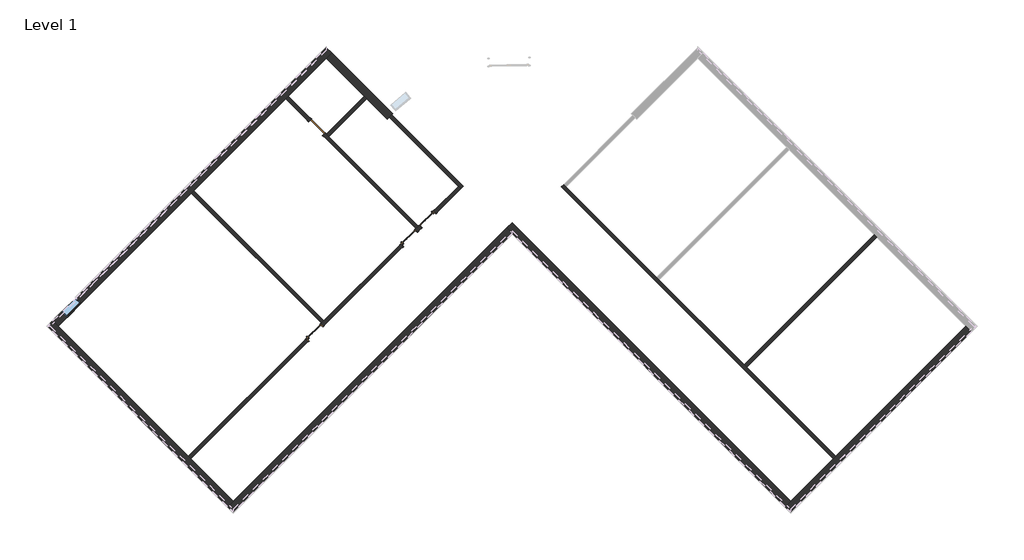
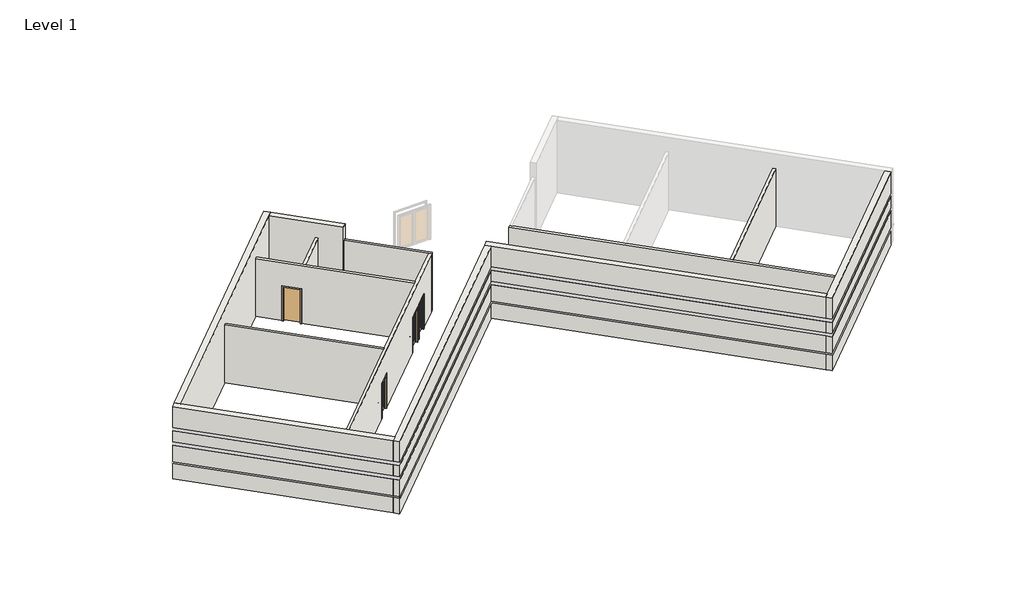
# One storey, part 1 of 2: 13 walls, 4 doors, 1 window.
"""IFC4 building model written with IfcOpenShell, lengths in millimetres."""

from ifc_helpers import new_model, si_unit, frame, origin, origin_with_axes, place, context, project, spatial, polyline, circle_curve, outline, extrude, faceted_brep, transform, mapped, element, save
from ifc_brep_helpers import plane_surface, cylinder_surface, revolved_surface, advanced_brep
from components import door_47956b35, door_87dbb2e6, door_9d26d547, window_15c49d37

model = new_model("IFC4")

# Units and contexts
model_context = context("Model", 3, world=origin())
ifc_project = project(units=[si_unit("LENGTHUNIT", "METRE", prefix="MILLI")], contexts=[model_context])

# Site, building, storey
site = spatial("IfcSite", under=ifc_project)
building = spatial("IfcBuilding", under=site)
storey = spatial("IfcBuildingStorey", under=building, Name="Level 1", Elevation=0.0)

# Doors
placement = place(None, origin())
door_shape = door_47956b35(model_context)
element("IfcDoor", 1, ObjectType="Door-Interior-Single-Full Glass-Wood : 36\" x 84\"", at=placement, inside=storey, context=model_context, shape_type="MappedRepresentation", body=[
    mapped(door_shape, transform((-12030.0168896, -1645.2399237, 0.0), x_axis=(0.7071067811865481, 0.7071067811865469, 0.0), y_axis=(-0.7071067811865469, 0.7071067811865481, 0.0), z_axis=(0.0, 0.0, 1.0))),
])
element("IfcDoor", 2, ObjectType="Door-Interior-Single-Full Glass-Wood : 36\" x 84\"", at=placement, inside=storey, context=model_context, shape_type="MappedRepresentation", body=[
    mapped(door_shape, transform((-7645.5246207, 2739.2523451, 0.0), x_axis=(0.7071067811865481, 0.7071067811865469, 0.0), y_axis=(-0.7071067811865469, 0.7071067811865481, 0.0), z_axis=(0.0, 0.0, 1.0))),
])
door_2_shape = door_87dbb2e6(model_context)
element("IfcDoor", 3, ObjectType="Door-Interior-Single-Full Glass-Wood : 36\" x 84\"", at=placement, inside=storey, context=model_context, shape_type="MappedRepresentation", body=[
    mapped(door_2_shape, transform((-6783.4200331, 3601.3569328, 0.0), x_axis=(-0.7071067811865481, -0.7071067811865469, 0.0), y_axis=(0.7071067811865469, -0.7071067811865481, 0.0), z_axis=(0.0, 0.0, 1.0))),
])
door_3_shape = door_9d26d547(model_context)
element("IfcDoor", 4, ObjectType="Door-Single-Panel : 36\" x 84\"", at=placement, inside=storey, context=model_context, shape_type="MappedRepresentation", body=[
    mapped(door_3_shape, transform((-11920.1265343, 7875.9588464, 0.0), x_axis=(0.7071067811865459, -0.7071067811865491, 0.0), y_axis=(0.7071067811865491, 0.7071067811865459, 0.0), z_axis=(0.0, 0.0, 1.0))),
])

# Walls
element("IfcWall", 5, ObjectType="Exterior - Split Face and CMU on Mtl. Stud", at=placement, inside=storey, context=model_context, shape_type="Brep", body=[
    faceted_brep([(18186.1821115, -1357.9895101, 0.0), (12149.2049342, -7394.9666875, 0.0), (12039.1967967, -7504.974825, 0.0), (10063.54045, -9480.6311716, 0.0), (9814.3383427, -9729.833279, 0.0), (9814.3383427, -9729.833279, 1016.0), (9879.4451996, -9664.7264221, 1016.0), (9879.4451996, -9664.7264221, 1085.85), (9814.3383427, -9729.833279, 1085.85), (9814.3383427, -9729.833279, 2133.6), (9879.4451996, -9664.7264221, 2133.6), (9879.4451996, -9664.7264221, 2336.8), (9814.3383427, -9729.833279, 2336.8), (9814.3383427, -9729.833279, 3048.0), (9879.4451996, -9664.7264221, 3048.0), (9879.4451996, -9664.7264221, 3251.2), (9814.3383427, -9729.833279, 3251.2), (9814.3383427, -9729.833279, 4572.0), (10063.54045, -9480.6311716, 4572.0), (18186.1821115, -1357.9895101, 4572.0), (18435.3842189, -1607.1916175, 4572.0), (10063.54045, -9979.0353863, 4572.0), (10063.54045, -9979.0353863, 3251.2), (18435.3842189, -1607.1916175, 3251.2), (10063.54045, -9979.0353863, 0.0), (18435.3842189, -1607.1916175, 0.0), (18435.3842189, -1607.1916175, 1016.0), (10063.54045, -9979.0353863, 1016.0), (10063.54045, -9979.0353863, 1085.85), (18435.3842189, -1607.1916175, 1085.85), (18435.3842189, -1607.1916175, 2133.6), (10063.54045, -9979.0353863, 2133.6), (10063.54045, -9979.0353863, 2336.8), (18435.3842189, -1607.1916175, 2336.8), (18435.3842189, -1607.1916175, 3048.0), (10063.54045, -9979.0353863, 3048.0), (9998.4335932, -9913.9285294, 0.0), (18370.277362, -1542.0847606, 3251.2), (18370.277362, -1542.0847606, 3048.0), (18370.277362, -1542.0847606, 2336.8), (18370.277362, -1542.0847606, 2133.6), (18370.277362, -1542.0847606, 1085.85), (18370.277362, -1542.0847606, 1016.0), (18370.277362, -1542.0847606, 0.0), (10063.54045, -9848.8216726, 1085.85), (10063.54045, -9848.8216726, 1016.0), (10063.54045, -9848.8216726, 2133.6), (10063.54045, -9848.8216726, 2336.8), (10063.54045, -9848.8216726, 3048.0), (10063.54045, -9848.8216726, 3251.2)], [[[0, 1, 2, 3, 4, 5, 6, 7, 8, 9, 10, 11, 12, 13, 14, 15, 16, 17, 18, 19]], [[20, 21, 22, 23]], [[24, 25, 26, 27]], [[28, 29, 30, 31]], [[32, 33, 34, 35]], [[19, 18, 17, 21, 20]], [[21, 17, 16, 22]], [[4, 36, 24, 27, 5]], [[8, 28, 31, 9]], [[12, 32, 35, 13]], [[0, 19, 20, 23, 37, 38, 34, 33, 39, 40, 30, 29, 41, 42, 26, 25, 43]], [[4, 3, 2, 1, 0, 43, 36]], [[43, 25, 24, 36]], [[7, 44, 41, 29, 28, 8]], [[42, 45, 6, 5, 27, 26]], [[44, 45, 42, 41]], [[45, 44, 7, 6]], [[40, 46, 10, 9, 31, 30]], [[11, 47, 39, 33, 32, 12]], [[47, 46, 40, 39]], [[46, 47, 11, 10]], [[38, 48, 14, 13, 35, 34]], [[15, 49, 37, 23, 22, 16]], [[49, 48, 38, 37]], [[48, 49, 15, 14]]]),
])
element("IfcWall", 6, ObjectType="Exterior - Split Face and CMU on Mtl. Stud", at=placement, inside=storey, context=model_context, shape_type="Brep", body=[
    faceted_brep([(10063.54045, -9480.6311716, 0.0), (-2868.0283643, 3450.9376427, 0.0), (-2868.0283643, 3450.9376427, 4572.0), (10063.54045, -9480.6311716, 4572.0), (9814.3383427, -9729.833279, 4572.0), (-2868.0283643, 2952.533428, 4572.0), (-3117.2304717, 3201.7355354, 4572.0), (-3117.2304717, 3201.7355354, 0.0), (-2868.0283643, 2952.533428, 0.0), (9814.3383427, -9729.833279, 0.0), (9814.3383427, -9729.833279, 1016.0), (-2868.0283643, 2952.533428, 1016.0), (-2933.1352212, 3017.6402849, 1016.0), (-2933.1352212, 3017.6402849, 1085.85), (-2868.0283643, 2952.533428, 1085.85), (9814.3383427, -9729.833279, 1085.85), (9814.3383427, -9729.833279, 2133.6), (-2868.0283643, 2952.533428, 2133.6), (-2933.1352212, 3017.6402849, 2133.6), (-2933.1352212, 3017.6402849, 2336.8), (-2868.0283643, 2952.533428, 2336.8), (9814.3383427, -9729.833279, 2336.8), (9814.3383427, -9729.833279, 3048.0), (-2868.0283643, 2952.533428, 3048.0), (-2933.1352212, 3017.6402849, 3048.0), (-2933.1352212, 3017.6402849, 3251.2), (-2868.0283643, 2952.533428, 3251.2), (9814.3383427, -9729.833279, 3251.2), (-3052.1236148, 3266.8423923, 0.0), (9879.4451996, -9664.7264221, 3251.2), (9879.4451996, -9664.7264221, 3048.0), (9879.4451996, -9664.7264221, 2336.8), (9879.4451996, -9664.7264221, 2133.6), (9879.4451996, -9664.7264221, 1085.85), (9879.4451996, -9664.7264221, 1016.0), (9879.4451996, -9664.7264221, 0.0), (-2868.0283643, 3082.7471418, 1085.85), (-2868.0283643, 3082.7471418, 1016.0), (-2868.0283643, 3082.7471418, 2133.6), (-2868.0283643, 3082.7471418, 2336.8), (-2868.0283643, 3082.7471418, 3048.0), (-2868.0283643, 3082.7471418, 3251.2)], [[[0, 1, 2, 3]], [[4, 5, 6, 7, 8, 9, 10, 11, 12, 13, 14, 15, 16, 17, 18, 19, 20, 21, 22, 23, 24, 25, 26, 27]], [[3, 2, 6, 5, 4]], [[2, 1, 28, 7, 6]], [[0, 3, 4, 27, 29, 30, 22, 21, 31, 32, 16, 15, 33, 34, 10, 9, 35]], [[1, 0, 35, 28]], [[35, 9, 8, 7, 28]], [[13, 36, 33, 15, 14]], [[34, 37, 12, 11, 10]], [[36, 37, 34, 33]], [[37, 36, 13, 12]], [[32, 38, 18, 17, 16]], [[19, 39, 31, 21, 20]], [[39, 38, 32, 31]], [[38, 39, 19, 18]], [[30, 40, 24, 23, 22]], [[25, 41, 29, 27, 26]], [[41, 40, 30, 29]], [[40, 41, 25, 24]]]),
])
element("IfcWall", 7, ObjectType="Exterior - Split Face and CMU on Mtl. Stud", at=placement, inside=storey, context=model_context, shape_type="Brep", body=[
    faceted_brep([(-3117.2304717, 3201.7355354, 4572.0), (-15799.5971786, -9480.6311716, 4572.0), (-16048.799286, -9729.833279, 4572.0), (-15799.5971786, -9979.0353863, 4572.0), (-2868.0283643, 2952.533428, 4572.0), (-3117.2304717, 3201.7355354, 0.0), (-15799.5971786, -9480.6311716, 0.0), (-16048.799286, -9729.833279, 0.0), (-16048.799286, -9729.833279, 1016.0), (-15983.6924291, -9664.7264221, 1016.0), (-15983.6924291, -9664.7264221, 1085.85), (-16048.799286, -9729.833279, 1085.85), (-16048.799286, -9729.833279, 2133.6), (-15983.6924291, -9664.7264221, 2133.6), (-15983.6924291, -9664.7264221, 2336.8), (-16048.799286, -9729.833279, 2336.8), (-16048.799286, -9729.833279, 3048.0), (-15983.6924291, -9664.7264221, 3048.0), (-15983.6924291, -9664.7264221, 3251.2), (-16048.799286, -9729.833279, 3251.2), (-15799.5971786, -9979.0353863, 3251.2), (-2868.0283643, 2952.533428, 3251.2), (-15799.5971786, -9979.0353863, 0.0), (-2868.0283643, 2952.533428, 0.0), (-2868.0283643, 2952.533428, 1016.0), (-15799.5971786, -9979.0353863, 1016.0), (-15799.5971786, -9979.0353863, 1085.85), (-2868.0283643, 2952.533428, 1085.85), (-2868.0283643, 2952.533428, 2133.6), (-15799.5971786, -9979.0353863, 2133.6), (-15799.5971786, -9979.0353863, 2336.8), (-2868.0283643, 2952.533428, 2336.8), (-2868.0283643, 2952.533428, 3048.0), (-15799.5971786, -9979.0353863, 3048.0), (-2933.1352212, 3017.6402849, 0.0), (-15864.7040355, -9913.9285294, 0.0), (-2933.1352212, 3017.6402849, 3251.2), (-2933.1352212, 3017.6402849, 3048.0), (-2933.1352212, 3017.6402849, 2336.8), (-2933.1352212, 3017.6402849, 2133.6), (-2933.1352212, 3017.6402849, 1085.85), (-2933.1352212, 3017.6402849, 1016.0), (-15799.5971786, -9848.8216726, 1085.85), (-15799.5971786, -9848.8216726, 1016.0), (-15799.5971786, -9848.8216726, 2133.6), (-15799.5971786, -9848.8216726, 2336.8), (-15799.5971786, -9848.8216726, 3048.0), (-15799.5971786, -9848.8216726, 3251.2)], [[[0, 1, 2, 3, 4]], [[5, 6, 7, 8, 9, 10, 11, 12, 13, 14, 15, 16, 17, 18, 19, 2, 1, 0]], [[4, 3, 20, 21]], [[22, 23, 24, 25]], [[26, 27, 28, 29]], [[30, 31, 32, 33]], [[7, 6, 5, 34, 35]], [[5, 0, 4, 21, 36, 37, 32, 31, 38, 39, 28, 27, 40, 41, 24, 23, 34]], [[23, 22, 35, 34]], [[3, 2, 19, 20]], [[7, 35, 22, 25, 8]], [[11, 26, 29, 12]], [[15, 30, 33, 16]], [[10, 42, 40, 27, 26, 11]], [[41, 43, 9, 8, 25, 24]], [[42, 43, 41, 40]], [[43, 42, 10, 9]], [[39, 44, 13, 12, 29, 28]], [[14, 45, 38, 31, 30, 15]], [[45, 44, 39, 38]], [[44, 45, 14, 13]], [[37, 46, 17, 16, 33, 32]], [[18, 47, 36, 21, 20, 19]], [[47, 46, 37, 36]], [[46, 47, 18, 17]]]),
])
element("IfcWall", 8, ObjectType="Exterior - Split Face and CMU on Mtl. Stud", at=placement, inside=storey, context=model_context, shape_type="Brep", body=[
    faceted_brep([(-15799.5971786, -9480.6311716, 0.0), (-17775.2535253, -7504.974825, 0.0), (-17885.2616628, -7394.9666875, 0.0), (-23922.2388402, -1357.9895101, 0.0), (-24171.4409475, -1108.7874027, 0.0), (-24171.4409475, -1108.7874027, 1016.0), (-24106.3340906, -1173.8942596, 1016.0), (-24106.3340906, -1173.8942596, 1085.85), (-24171.4409475, -1108.7874027, 1085.85), (-24171.4409475, -1108.7874027, 2133.6), (-24106.3340906, -1173.8942596, 2133.6), (-24106.3340906, -1173.8942596, 2336.8), (-24171.4409475, -1108.7874027, 2336.8), (-24171.4409475, -1108.7874027, 3048.0), (-24106.3340906, -1173.8942596, 3048.0), (-24106.3340906, -1173.8942596, 3251.2), (-24171.4409475, -1108.7874027, 3251.2), (-24171.4409475, -1108.7874027, 4572.0), (-23922.2388402, -1357.9895101, 4572.0), (-15799.5971786, -9480.6311716, 4572.0), (-16048.799286, -9729.833279, 4572.0), (-24420.6430549, -1357.9895101, 4572.0), (-24420.6430549, -1357.9895101, 3251.2), (-16048.799286, -9729.833279, 3251.2), (-24420.6430549, -1357.9895101, 0.0), (-16048.799286, -9729.833279, 0.0), (-16048.799286, -9729.833279, 1016.0), (-24420.6430549, -1357.9895101, 1016.0), (-24420.6430549, -1357.9895101, 1085.85), (-16048.799286, -9729.833279, 1085.85), (-16048.799286, -9729.833279, 2133.6), (-24420.6430549, -1357.9895101, 2133.6), (-24420.6430549, -1357.9895101, 2336.8), (-16048.799286, -9729.833279, 2336.8), (-16048.799286, -9729.833279, 3048.0), (-24420.6430549, -1357.9895101, 3048.0), (-24355.536198, -1292.8826532, 0.0), (-15983.6924291, -9664.7264221, 3251.2), (-15983.6924291, -9664.7264221, 3048.0), (-15983.6924291, -9664.7264221, 2336.8), (-15983.6924291, -9664.7264221, 2133.6), (-15983.6924291, -9664.7264221, 1085.85), (-15983.6924291, -9664.7264221, 1016.0), (-15983.6924291, -9664.7264221, 0.0), (-24290.4293411, -1357.9895101, 1085.85), (-24290.4293411, -1357.9895101, 1016.0), (-24290.4293411, -1357.9895101, 2133.6), (-24290.4293411, -1357.9895101, 2336.8), (-24290.4293411, -1357.9895101, 3048.0), (-24290.4293411, -1357.9895101, 3251.2)], [[[0, 1, 2, 3, 4, 5, 6, 7, 8, 9, 10, 11, 12, 13, 14, 15, 16, 17, 18, 19]], [[20, 21, 22, 23]], [[24, 25, 26, 27]], [[28, 29, 30, 31]], [[32, 33, 34, 35]], [[19, 18, 17, 21, 20]], [[21, 17, 16, 22]], [[4, 36, 24, 27, 5]], [[8, 28, 31, 9]], [[12, 32, 35, 13]], [[0, 19, 20, 23, 37, 38, 34, 33, 39, 40, 30, 29, 41, 42, 26, 25, 43]], [[4, 3, 2, 1, 0, 43, 36]], [[43, 25, 24, 36]], [[7, 44, 41, 29, 28, 8]], [[42, 45, 6, 5, 27, 26]], [[44, 45, 42, 41]], [[45, 44, 7, 6]], [[40, 46, 10, 9, 31, 30]], [[11, 47, 39, 33, 32, 12]], [[47, 46, 40, 39]], [[46, 47, 11, 10]], [[38, 48, 14, 13, 35, 34]], [[15, 49, 37, 23, 22, 16]], [[49, 48, 38, 37]], [[48, 49, 15, 14]]]),
])
element("IfcWall", 9, ObjectType="Exterior - Split Face and CMU on Mtl. Stud", at=placement, inside=storey, context=model_context, shape_type="Brep", body=[
    faceted_brep([(-23922.2388402, -1357.9895101, 4572.0), (-11489.0742405, 11075.1750895, 4572.0), (-11239.8721332, 11324.3771969, 4572.0), (-11489.0742405, 11573.5793042, 4572.0), (-24171.4409475, -1108.7874027, 4572.0), (-23922.2388402, -1357.9895101, 0.0), (-17743.7048466, 4820.5444835, 0.0), (-17633.6967091, 4930.552621, 0.0), (-13359.2125777, 9205.0367523, 0.0), (-13249.2044403, 9315.0448898, 0.0), (-11489.0742405, 11075.1750895, 0.0), (-11239.8721332, 11324.3771969, 0.0), (-11239.8721332, 11324.3771969, 1016.0), (-11304.9789901, 11259.27034, 1016.0), (-11304.9789901, 11259.27034, 1085.85), (-11239.8721332, 11324.3771969, 1085.85), (-11239.8721332, 11324.3771969, 2133.6), (-11304.9789901, 11259.27034, 2133.6), (-11304.9789901, 11259.27034, 2336.8), (-11239.8721332, 11324.3771969, 2336.8), (-11239.8721332, 11324.3771969, 3048.0), (-11304.9789901, 11259.27034, 3048.0), (-11304.9789901, 11259.27034, 3251.2), (-11239.8721332, 11324.3771969, 3251.2), (-23508.0245266, -943.7751965, 914.4), (-23508.0245266, -943.7751965, 2133.6), (-22861.4460859, -297.1967558, 2133.6), (-22861.4460859, -297.1967558, 914.4), (-11489.0742405, 11573.5793042, 3251.2), (-24171.4409475, -1108.7874027, 3251.2), (-11489.0742405, 11573.5793042, 0.0), (-24171.4409475, -1108.7874027, 0.0), (-24171.4409475, -1108.7874027, 1016.0), (-23757.2266339, -694.5730891, 1016.0), (-23757.2266339, -694.5730891, 914.4), (-23110.6481932, -47.9946484, 914.4), (-23110.6481932, -47.9946484, 1016.0), (-11489.0742405, 11573.5793042, 1016.0), (-23110.6481932, -47.9946484, 2133.6), (-23757.2266339, -694.5730891, 2133.6), (-23757.2266339, -694.5730891, 2336.8), (-24171.4409475, -1108.7874027, 2336.8), (-24171.4409475, -1108.7874027, 3048.0), (-11489.0742405, 11573.5793042, 3048.0), (-11489.0742405, 11573.5793042, 2336.8), (-23110.6481932, -47.9946484, 2336.8), (-23757.2266339, -694.5730891, 1085.85), (-24171.4409475, -1108.7874027, 1085.85), (-24171.4409475, -1108.7874027, 2133.6), (-23110.6481932, -47.9946484, 1085.85), (-11489.0742405, 11573.5793042, 2133.6), (-11489.0742405, 11573.5793042, 1085.85), (-24106.3340906, -1173.8942596, 0.0), (-11423.9673837, 11508.4724474, 0.0), (-24106.3340906, -1173.8942596, 3251.2), (-24106.3340906, -1173.8942596, 3048.0), (-24106.3340906, -1173.8942596, 2336.8), (-24106.3340906, -1173.8942596, 2133.6), (-24106.3340906, -1173.8942596, 1085.85), (-24106.3340906, -1173.8942596, 1016.0), (-23692.119777, -759.679946, 1016.0), (-23692.119777, -759.679946, 1085.85), (-23692.119777, -759.679946, 2133.6), (-23045.5413363, -113.1015053, 2133.6), (-23045.5413363, -113.1015053, 1085.85), (-23045.5413363, -113.1015053, 1016.0), (-11489.0742405, 11443.3655905, 1085.85), (-11489.0742405, 11443.3655905, 1016.0), (-23692.119777, -759.679946, 2133.6), (-23692.119777, -759.679946, 2336.8), (-23045.5413363, -113.1015053, 2133.6), (-23045.5413363, -113.1015053, 2336.8), (-11489.0742405, 11443.3655905, 2133.6), (-11489.0742405, 11443.3655905, 2336.8), (-11489.0742405, 11443.3655905, 3048.0), (-11489.0742405, 11443.3655905, 3251.2)], [[[0, 1, 2, 3, 4]], [[5, 6, 7, 8, 9, 10, 11, 12, 13, 14, 15, 16, 17, 18, 19, 20, 21, 22, 23, 2, 1, 0], [24, 25, 26, 27]], [[4, 3, 28, 29]], [[30, 31, 32, 33, 34, 35, 36, 37]], [[38, 39, 40, 41, 42, 43, 44, 45]], [[39, 46, 47, 48]], [[49, 38, 50, 51]], [[11, 10, 9, 8, 7, 6, 5, 52, 53]], [[5, 0, 4, 29, 54, 55, 42, 41, 56, 57, 48, 47, 58, 59, 32, 31, 52]], [[31, 30, 53, 52]], [[3, 2, 23, 28]], [[11, 53, 30, 37, 12]], [[15, 51, 50, 16]], [[19, 44, 43, 20]], [[25, 24, 34, 33, 60, 61, 46, 39, 62]], [[35, 34, 24, 27]], [[27, 26, 63, 38, 49, 64, 65, 36, 35]], [[39, 38, 63, 26, 25, 62]], [[61, 58, 47, 46]], [[59, 60, 33, 32]], [[58, 61, 60, 59]], [[66, 64, 49, 51, 15, 14]], [[65, 67, 13, 12, 37, 36]], [[64, 66, 67, 65]], [[67, 66, 14, 13]], [[68, 39, 48, 57]], [[40, 69, 56, 41]], [[39, 68, 69, 40]], [[69, 68, 57, 56]], [[70, 38, 45, 71]], [[38, 70, 72, 17, 16, 50]], [[70, 71, 73, 72]], [[71, 45, 44, 19, 18, 73]], [[72, 73, 18, 17]], [[55, 74, 21, 20, 43, 42]], [[22, 75, 54, 29, 28, 23]], [[75, 74, 55, 54]], [[74, 75, 22, 21]]]),
])
element("IfcWall", 10, ObjectType="Exterior - Split Face and CMU on Mtl. Stud", at=placement, inside=storey, context=model_context, shape_type="AdvancedBrep", body=[
    advanced_brep(
    [(-11489.0742405, 11075.1750895, 0.0), (-9728.9440408, 9315.0448898, 0.0), (-9618.9359033, 9205.0367523, 0.0), (-8658.0122729, 8244.1131219, 0.0), (-8658.0122729, 8244.1131219, 4572.0), (-11489.0742405, 11075.1750895, 4572.0), (-11239.8721332, 11324.3771969, 4572.0), (-8662.486224, 8746.9912878, 4572.0), (-8413.2817722, 8497.7868359, 4572.0), (-8413.2817722, 8497.7868359, 0.0), (-8662.486224, 8746.9912878, 0.0), (-11239.8721332, 11324.3771969, 0.0), (-11239.8721332, 11324.3771969, 1016.0), (-8662.486224, 8746.9912878, 1016.0), (-8597.3787742, 8681.8838379, 1016.0), (-8597.3787742, 8681.8838379, 1085.85), (-8662.486224, 8746.9912878, 1085.85), (-11239.8721332, 11324.3771969, 1085.85), (-11239.8721332, 11324.3771969, 2133.6), (-8662.486224, 8746.9912878, 2133.6), (-8597.3787742, 8681.8838379, 2133.6), (-8597.3787742, 8681.8838379, 2336.8), (-8662.486224, 8746.9912878, 2336.8), (-11239.8721332, 11324.3771969, 2336.8), (-11239.8721332, 11324.3771969, 3048.0), (-8662.486224, 8746.9912878, 3048.0), (-8597.3787742, 8681.8838379, 3048.0), (-8597.3787742, 8681.8838379, 3251.2), (-8662.486224, 8746.9912878, 3251.2), (-11239.8721332, 11324.3771969, 3251.2), (-8478.2967797, 8432.5881297, 0.0), (-11304.9789901, 11259.27034, 3251.2), (-11304.9789901, 11259.27034, 3048.0), (-11304.9789901, 11259.27034, 2336.8), (-11304.9789901, 11259.27034, 2133.6), (-11304.9789901, 11259.27034, 1085.85), (-11304.9789901, 11259.27034, 1016.0), (-11304.9789901, 11259.27034, 0.0), (-8662.3967205, 8616.6880705, 1085.85), (-8662.3967205, 8616.6880705, 1016.0), (-8662.3967205, 8616.6880705, 2336.8), (-8662.3967205, 8616.6880705, 2133.6), (-8662.3967205, 8616.6880705, 3251.2), (-8662.3967205, 8616.6880705, 3048.0)],
    [
        (0, 1),
        (1, 2),
        (2, 3),
        (3, 4),
        (4, 5),
        (5, 0),
        (6, 7),
        (7, 8),
        (8, 9),
        (9, 10),
        (10, 11),
        (11, 12),
        (12, 13),
        (13, 14),
        (14, 15),
        (15, 16),
        (16, 17),
        (17, 18),
        (18, 19),
        (19, 20),
        (20, 21),
        (21, 22),
        (22, 23),
        (23, 24),
        (24, 25),
        (25, 26),
        (26, 27),
        (27, 28),
        (28, 29),
        (29, 6),
        (4, 8, circle_curve(frame((-2868.0283643, 2903.1420194, 4572.0), z_axis=(0.0, 0.0, -1.0), x_axis=(1.0, 0.0, 0.0)), 7877.175)),
        (6, 5),
        (3, 30, circle_curve(frame((-2868.0283643, 2903.1420194, 0.0), z_axis=(0.0, 0.0, -1.0), x_axis=(1.0, 0.0, 0.0)), 7877.175)),
        (30, 9, circle_curve(frame((-2868.0283643, 2903.1420194, 0.0), z_axis=(0.0, 0.0, -1.0), x_axis=(1.0, 0.0, 0.0)), 7877.175)),
        (29, 31),
        (31, 32),
        (32, 24),
        (23, 33),
        (33, 34),
        (34, 18),
        (17, 35),
        (35, 36),
        (36, 12),
        (11, 37),
        (37, 0),
        (37, 30),
        (38, 39),
        (39, 36),
        (35, 38),
        (15, 38, circle_curve(frame((-2868.0283643, 2903.1420194, 1085.85), z_axis=(0.0, 0.0, 1.0), x_axis=(-0.7040995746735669, 0.7101012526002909, 0.0)), 8137.525)),
        (39, 14, circle_curve(frame((-2868.0283643, 2903.1420194, 1016.0), z_axis=(0.0, 0.0, -1.0), x_axis=(-0.7040995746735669, 0.7101012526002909, 0.0)), 8137.525)),
        (40, 41),
        (41, 34),
        (33, 40),
        (41, 20, circle_curve(frame((-2868.0283643, 2903.1420194, 2133.6), z_axis=(0.0, 0.0, -1.0), x_axis=(-0.7120553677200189, 0.7021233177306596, 0.0)), 8137.525)),
        (40, 21, circle_curve(frame((-2868.0283643, 2903.1420194, 2336.8), z_axis=(0.0, 0.0, -1.0), x_axis=(-0.7120553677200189, 0.7021233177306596, 0.0)), 8137.525)),
        (42, 43),
        (43, 32),
        (31, 42),
        (43, 26, circle_curve(frame((-2868.0283643, 2903.1420194, 3048.0), z_axis=(0.0, 0.0, -1.0), x_axis=(-0.7120553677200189, 0.7021233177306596, 0.0)), 8137.525)),
        (42, 27, circle_curve(frame((-2868.0283643, 2903.1420194, 3251.2), z_axis=(0.0, 0.0, -1.0), x_axis=(-0.7120553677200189, 0.7021233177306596, 0.0)), 8137.525)),
    ],
    [
        plane_surface(frame((-11738.2763479, 11324.3771969, 0.0), z_axis=(-0.7071067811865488, -0.7071067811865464, 0.0), x_axis=(0.7071067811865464, -0.7071067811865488, 0.0))),
        plane_surface(frame((-11489.0742405, 11573.5793042, 0.0), z_axis=(0.7071067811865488, 0.7071067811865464, 0.0), x_axis=(-0.7071067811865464, 0.7071067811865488, 0.0))),
        plane_surface(frame((-8786.2632499, 8372.3640989, 4572.0), z_axis=(0.0, 0.0, 1.0), x_axis=(0.7071067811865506, 0.7071067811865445, 0.0))),
        revolved_surface(polyline([(5009.146635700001, 2903.1420194, 0.0), (5009.146635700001, 2903.1420194, 4572.0)]), (-2868.0283643, 2903.1420194, 0.0), (0.0, 0.0, -1.0)),
        plane_surface(frame((-24171.4409475, -1607.1916175, 0.0), z_axis=(-0.7071067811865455, 0.7071067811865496, 0.0), x_axis=(0.7071067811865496, 0.7071067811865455, 0.0))),
        plane_surface(frame((-11613.6752942, 11199.7761432, 0.0), z_axis=(0.0, 0.0, -1.0000000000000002), x_axis=(0.7071067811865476, 0.7071067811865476, 0.0))),
        plane_surface(frame((0.0, 0.0, 0.0), z_axis=(0.0, 0.0, -1.0), x_axis=(1.0, 0.0, 0.0))),
        plane_surface(frame((-11489.0742405, 11443.3655905, 1016.0), z_axis=(0.7071067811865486, 0.7071067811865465, 0.0), x_axis=(0.7071067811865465, -0.7071067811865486, 0.0))),
        plane_surface(frame((-2868.0283643, 2903.1420194, 1085.85), z_axis=(0.0, 0.0, -1.0), x_axis=(-0.7040995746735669, 0.7101012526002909, 0.0))),
        plane_surface(frame((-2868.0283643, 2903.1420194, 1016.0), z_axis=(0.0, 0.0, 1.0), x_axis=(-0.7040995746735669, 0.7101012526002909, 0.0))),
        cylinder_surface(frame((-2868.0283643, 2903.1420194, 1016.0), z_axis=(0.0, 0.0, -1.0), x_axis=(-0.7040995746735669, 0.7101012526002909, 0.0)), 8137.525),
        plane_surface(frame((-11489.0742405, 11443.3655905, 2133.6), z_axis=(0.7071067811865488, 0.7071067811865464, 0.0), x_axis=(0.7071067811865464, -0.7071067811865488, 0.0))),
        plane_surface(frame((-2868.0283643, 2903.1420194, 2133.6), z_axis=(0.0, 0.0, 1.0), x_axis=(-0.7120553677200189, 0.7021233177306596, 0.0))),
        cylinder_surface(frame((-2868.0283643, 2903.1420194, 2133.6), z_axis=(0.0, 0.0, -1.0), x_axis=(-0.7120553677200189, 0.7021233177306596, 0.0)), 8137.525),
        plane_surface(frame((-2868.0283643, 2903.1420194, 2336.8), z_axis=(0.0, 0.0, -1.0), x_axis=(-0.7120553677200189, 0.7021233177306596, 0.0))),
        plane_surface(frame((-11489.0742405, 11443.3655905, 3048.0), z_axis=(0.7071067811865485, 0.7071067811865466, 0.0), x_axis=(0.7071067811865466, -0.7071067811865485, 0.0))),
        plane_surface(frame((-2868.0283643, 2903.1420194, 3048.0), z_axis=(0.0, 0.0, 1.0), x_axis=(-0.7120553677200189, 0.7021233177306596, 0.0))),
        cylinder_surface(frame((-2868.0283643, 2903.1420194, 3048.0), z_axis=(0.0, 0.0, -1.0), x_axis=(-0.7120553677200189, 0.7021233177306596, 0.0)), 8137.525),
        plane_surface(frame((-2868.0283643, 2903.1420194, 3251.2), z_axis=(0.0, 0.0, -1.0), x_axis=(-0.7120553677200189, 0.7021233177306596, 0.0))),
    ],
    [
        (0, [[1, 2, 3, 4, 5, 6]]),
        (1, [[7, 8, 9, 10, 11, 12, 13, 14, 15, 16, 17, 18, 19, 20, 21, 22, 23, 24, 25, 26, 27, 28, 29, 30]]),
        (2, [[-5, 31, -8, -7, 32]]),
        (3, [[-4, 33, 34, -9, -31]]),
        (4, [[-6, -32, -30, 35, 36, 37, -24, 38, 39, 40, -18, 41, 42, 43, -12, 44, 45]]),
        (5, [[-3, -2, -1, -45, 46, -33]]),
        (6, [[-44, -11, -10, -34, -46]]),
        (7, [[47, 48, -42, 49]]),
        (8, [[50, -49, -41, -17, -16]]),
        (9, [[-48, 51, -14, -13, -43]]),
        (10, [[-47, -50, -15, -51]]),
        (11, [[52, 53, -39, 54]]),
        (12, [[-53, 55, -20, -19, -40]]),
        (13, [[-52, 56, -21, -55]]),
        (14, [[-56, -54, -38, -23, -22]]),
        (15, [[57, 58, -36, 59]]),
        (16, [[-58, 60, -26, -25, -37]]),
        (17, [[-57, 61, -27, -60]]),
        (18, [[-61, -59, -35, -29, -28]]),
    ],
),
])
element("IfcWall", 11, ObjectType="Interior - 6 1/8\" Partition (2-hr)", at=placement, inside=storey, context=model_context, shape_type="Brep", body=[
    faceted_brep([(-17775.2535253, -7504.974825, 0.0), (-17885.2616628, -7394.9666875, 0.0), (-12424.0256269, -1933.7306516, 0.0), (-12314.0174894, -2043.7387891, 0.0), (-5348.5885532, 5141.7064221, 0.0), (-5238.5804157, 5031.6982846, 0.0), (-6384.9211677, 3885.3575326, 0.0), (-6494.9293052, 3995.3656701, 0.0), (-11631.5180242, -1361.2393239, 0.0), (-11741.5261617, -1251.2311864, 0.0), (-11706.7276692, -1216.4326939, 0.0), (-11596.7195317, -1106.4245564, 0.0), (-8039.533358, 2450.7616173, 0.0), (-7929.5252205, 2340.7534798, 0.0), (-7247.0257553, 3023.252945, 0.0), (-7357.0338928, 3133.2610825, 0.0), (-7322.2354004, 3168.0595749, 0.0), (-7212.2272629, 3278.0677124, 0.0), (-7177.4287704, 3312.8662049, 0.0), (-7067.4206329, 3202.8580674, 0.0), (-17775.2535253, -7504.974825, 3657.6), (-5238.5804157, 5031.6982846, 3657.6), (-5348.5885532, 5141.7064221, 3657.6), (-7212.2272629, 3278.0677124, 3657.6), (-7322.2354004, 3168.0595749, 3657.6), (-11596.7195317, -1106.4245564, 3657.6), (-11706.7276692, -1216.4326939, 3657.6), (-17885.2616628, -7394.9666875, 3657.6), (-12314.0174894, -2043.7387891, 2159.0), (-11631.5180242, -1361.2393239, 2159.0), (-7929.5252205, 2340.7534798, 2159.0), (-7247.0257553, 3023.252945, 2159.0), (-7067.4206329, 3202.8580674, 2159.0), (-6384.9211677, 3885.3575326, 2159.0), (-6494.9293052, 3995.3656701, 2159.0), (-7177.4287704, 3312.8662049, 2159.0), (-7357.0338928, 3133.2610825, 2159.0), (-8039.533358, 2450.7616173, 2159.0), (-11741.5261617, -1251.2311864, 2159.0), (-12424.0256269, -1933.7306516, 2159.0)], [[[0, 1, 2, 3]], [[4, 5, 6, 7]], [[8, 9, 10, 11, 12, 13]], [[14, 15, 16, 17, 18, 19]], [[20, 21, 22, 23, 24, 25, 26, 27]], [[21, 20, 0, 3, 28, 29, 8, 13, 30, 31, 14, 19, 32, 33, 6, 5]], [[27, 26, 25, 24, 23, 22, 4, 7, 34, 35, 18, 17, 16, 15, 36, 37, 12, 11, 10, 9, 38, 39, 2, 1]], [[0, 20, 27, 1]], [[21, 5, 4, 22]], [[29, 38, 9, 8]], [[38, 29, 28, 39]], [[39, 28, 3, 2]], [[31, 36, 15, 14]], [[36, 31, 30, 37]], [[37, 30, 13, 12]], [[35, 32, 19, 18]], [[32, 35, 34, 33]], [[33, 34, 7, 6]]]),
])
element("IfcWall", 12, ObjectType="Interior - 6 1/8\" Partition (2-hr)", at=placement, inside=storey, context=model_context, shape_type="Brep", body=[
    faceted_brep([(-7322.2354004, 3168.0595749, 0.0), (-11651.8413827, 7497.6655573, 0.0), (-11541.8332452, 7607.6736948, 0.0), (-11489.0742405, 7554.9146901, 0.0), (-11379.066103, 7444.9065526, 0.0), (-7212.2272629, 3278.0677124, 0.0), (-12298.4198234, 8144.243998, 0.0), (-13359.2125777, 9205.0367523, 0.0), (-13249.2044403, 9315.0448898, 0.0), (-12188.411686, 8254.2521355, 0.0), (-7212.2272629, 3278.0677124, 3657.6), (-11379.066103, 7444.9065526, 3657.6), (-11489.0742405, 7554.9146901, 3657.6), (-13249.2044403, 9315.0448898, 3657.6), (-13359.2125777, 9205.0367523, 3657.6), (-7322.2354004, 3168.0595749, 3657.6), (-11541.8332452, 7607.6736948, 2133.6), (-12188.411686, 8254.2521355, 2133.6), (-11651.8413827, 7497.6655573, 2133.6), (-12298.4198234, 8144.243998, 2133.6)], [[[0, 1, 2, 3, 4, 5]], [[6, 7, 8, 9]], [[10, 11, 12, 13, 14, 15]], [[5, 4, 3, 2, 16, 17, 9, 8, 13, 12, 11, 10]], [[18, 1, 0, 15, 14, 7, 6, 19]], [[13, 8, 7, 14]], [[5, 10, 15, 0]], [[16, 2, 1, 18]], [[17, 16, 18, 19]], [[9, 17, 19, 6]]]),
])
element("IfcWall", 13, ObjectType="Interior - 6 1/8\" Partition (2-hr)", at=placement, inside=storey, context=model_context, shape_type="AdvancedBrep", body=[
    advanced_brep(
    [(-5128.5722782, 5141.7064221, 0.0), (-8449.0111375, 8462.1452813, 0.0), (-8449.0111375, 8462.1452813, 3657.6), (-5128.5722782, 5141.7064221, 3657.6), (-5238.5804157, 5031.6982846, 0.0), (-5238.5804157, 5031.6982846, 3657.6), (-5348.5885532, 5141.7064221, 3657.6), (-8557.7157352, 8350.8336041, 3657.6), (-8557.7157352, 8350.8336041, 0.0), (-5348.5885532, 5141.7064221, 0.0)],
    [
        (0, 1),
        (1, 2),
        (2, 3),
        (3, 0),
        (4, 5),
        (5, 6),
        (6, 7),
        (7, 8),
        (8, 9),
        (9, 4),
        (0, 4),
        (8, 1, circle_curve(frame((-2868.0283643, 2903.1420194, 0.0), z_axis=(0.0, 0.0, -1.0), x_axis=(1.0, 0.0, 0.0)), 7877.175)),
        (2, 7, circle_curve(frame((-2868.0283643, 2903.1420194, 3657.6), z_axis=(0.0, 0.0, 1.0), x_axis=(1.0, 0.0, 0.0)), 7877.175)),
        (5, 3),
    ],
    [
        plane_surface(frame((-5183.576347, 5196.7104908, 0.0), z_axis=(0.7071067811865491, 0.7071067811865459, 0.0), x_axis=(-0.7071067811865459, 0.7071067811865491, 0.0))),
        plane_surface(frame((-5293.5844845, 5086.7023533, 0.0), z_axis=(-0.7071067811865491, -0.7071067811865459, 0.0), x_axis=(0.7071067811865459, -0.7071067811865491, 0.0))),
        plane_surface(frame((-5183.576347, 5196.7104908, 0.0), z_axis=(0.0, 0.0, -1.0), x_axis=(-0.707106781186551, -0.7071067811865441, 0.0))),
        plane_surface(frame((-8573.2406241, 8586.374768, 3657.6), z_axis=(0.0, 0.0, 1.0), x_axis=(-0.707106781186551, -0.7071067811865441, 0.0))),
        plane_surface(frame((-17899.854579, -7629.5758786, 0.0), z_axis=(0.7071067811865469, -0.7071067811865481, 0.0), x_axis=(0.7071067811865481, 0.7071067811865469, 0.0))),
        cylinder_surface(frame((-2868.0283643, 2903.1420194, 0.0), z_axis=(0.0, 0.0, -1.0), x_axis=(1.0, 0.0, 0.0)), 7877.175),
    ],
    [
        (0, [[1, 2, 3, 4]]),
        (1, [[5, 6, 7, 8, 9, 10]]),
        (2, [[-1, 11, -10, -9, 12]]),
        (3, [[-3, 13, -7, -6, 14]]),
        (4, [[-4, -14, -5, -11]]),
        (5, [[-2, -12, -8, -13]]),
    ],
),
])
element("IfcWall", 14, ObjectType="Interior - 6 1/8\" Partition (2-hr)", at=placement, inside=storey, context=model_context, shape_type="SweptSolid", body=[
    extrude(outline(polyline([(-11489.0742405, 7554.9146901), (-9728.9440408, 9315.0448898), (-9618.9359033, 9205.0367523), (-11379.066103, 7444.9065526), (-11489.0742405, 7554.9146901)])), origin_with_axes(), (0.0, 0.0, 1.0), 3657.6),
])
element("IfcWall", 15, ObjectType="Interior - 6 1/8\" Partition (2-hr)", at=placement, inside=storey, context=model_context, shape_type="SweptSolid", body=[
    extrude(outline(polyline([(-17633.6967091, 4930.552621), (-11596.7195317, -1106.4245564), (-11706.7276692, -1216.4326939), (-17743.7048466, 4820.5444835), (-17633.6967091, 4930.552621)])), origin_with_axes(), (0.0, 0.0, 1.0), 3657.6),
])
element("IfcWall", 16, ObjectType="Interior - 6 1/8\" Partition (2-hr)", at=placement, inside=storey, context=model_context, shape_type="Brep", body=[
    faceted_brep([(12149.2049342, -7394.9666875, 0.0), (8018.2871185, -3264.0488718, 0.0), (7908.278981, -3154.0407343, 0.0), (3956.9662877, 797.271959, 0.0), (3846.9581502, 907.2800964, 0.0), (-353.5566504, 5107.7948971, 0.0), (-463.5647879, 5217.8030346, 0.0), (-463.5647879, 5217.8030346, 3657.6), (-353.5566504, 5107.7948971, 3657.6), (3846.9581502, 907.2800964, 3657.6), (3956.9662877, 797.271959, 3657.6), (7908.278981, -3154.0407343, 3657.6), (8018.2871185, -3264.0488718, 3657.6), (12149.2049342, -7394.9666875, 3657.6), (12039.1967967, -7504.974825, 0.0), (12039.1967967, -7504.974825, 3657.6), (-573.5729254, 5107.7948971, 3657.6), (-573.5729254, 5107.7948971, 0.0)], [[[0, 1, 2, 3, 4, 5, 6, 7, 8, 9, 10, 11, 12, 13]], [[14, 15, 16, 17]], [[6, 5, 4, 3, 2, 1, 0, 14, 17]], [[13, 12, 11, 10, 9, 8, 7, 16, 15]], [[7, 6, 17, 16]], [[0, 13, 15, 14]]]),
])
element("IfcWall", 17, ObjectType="Interior - 6 1/8\" Partition (2-hr)", at=placement, inside=storey, context=model_context, shape_type="SweptSolid", body=[
    extrude(outline(polyline([(7908.278981, -3154.0407343), (13945.2561584, 2882.9364431), (14055.2642958, 2772.9283056), (8018.2871185, -3264.0488718), (7908.278981, -3154.0407343)])), origin_with_axes(), (0.0, 0.0, 1.0), 3657.6),
])

# Window
window_shape = window_15c49d37(model_context)
element("IfcWindow", 18, ObjectType="Fixed : 36\" x 48\"", at=placement, inside=storey, context=model_context, shape_type="MappedRepresentation", body=[
    mapped(window_shape, transform((-23336.2771283, -522.8256908, 0.0), x_axis=(-0.7071067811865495, -0.7071067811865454, 0.0), y_axis=(0.7071067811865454, -0.7071067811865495, 0.0), z_axis=(0.0, 0.0, 1.0))),
])

save(model, "model.ifc")
